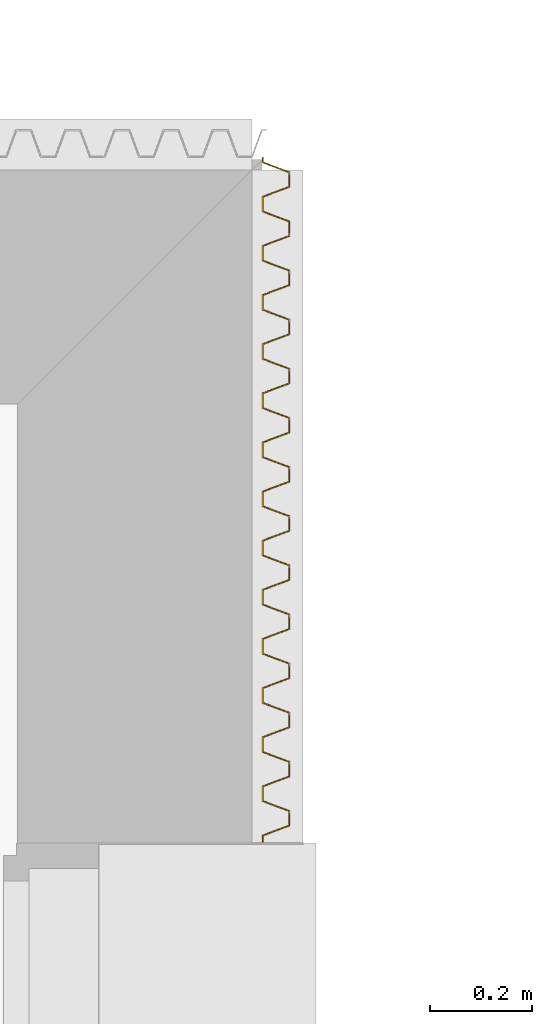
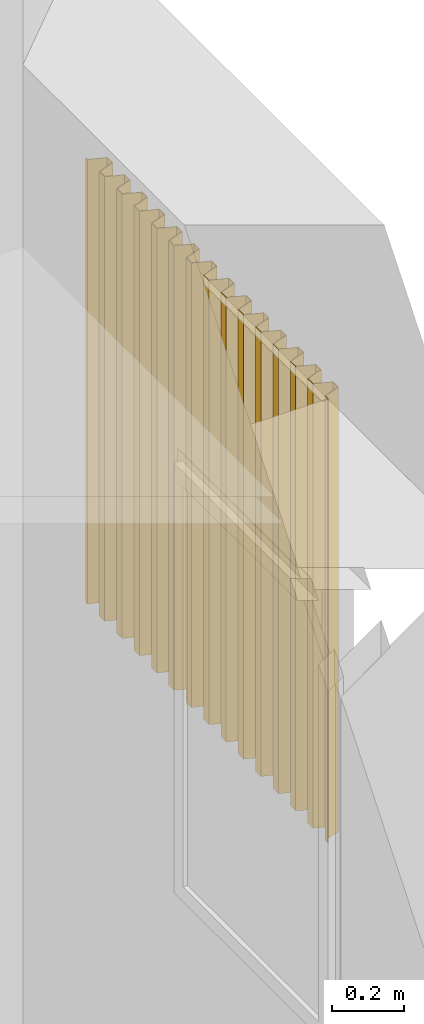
# One storey, part 88 of 91: 1 covering.
"""IFC2X3 building model written with IfcOpenShell, lengths in metres."""

from ifc_helpers import new_model, entity, si_unit, converted_unit, derived_unit, money_unit, direction, frame, origin_with_axes, place, context, subcontext, project, spatial, faceted_brep, material, type_object, element, save


model = new_model("IFC2X3")

# Units and contexts
model_context = context("Model", 3, precision=1e-05, world=origin_with_axes(), true_north=direction((0.0, 1.0)))
body_context = subcontext(model_context, "Body", "Model", "MODEL_VIEW")
ifc_project = project(units=[si_unit("LENGTHUNIT", "METRE"), si_unit("AREAUNIT", "SQUARE_METRE"), si_unit("VOLUMEUNIT", "CUBIC_METRE"), converted_unit("PLANEANGLEUNIT", "DEGREE", entity("IfcPlaneAngleMeasure", 0.0174532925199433), si_unit("PLANEANGLEUNIT", "RADIAN"), dimensions=[0, 0, 0, 0, 0, 0, 0]), money_unit("EUR"), converted_unit("TIMEUNIT", "Year", entity("IfcTimeMeasure", 31557600.0), si_unit("TIMEUNIT", "SECOND"), dimensions=[0, 0, 1, 0, 0, 0, 0]), si_unit("MASSUNIT", "GRAM", prefix="KILO"), si_unit("THERMODYNAMICTEMPERATUREUNIT", "DEGREE_CELSIUS"), si_unit("LUMINOUSINTENSITYUNIT", "LUMEN"), si_unit("ENERGYUNIT", "JOULE", prefix="MEGA"), derived_unit("THERMALCONDUCTANCEUNIT", [(si_unit("POWERUNIT", "WATT"), 1), (si_unit("LENGTHUNIT", "METRE"), -1), (si_unit("THERMODYNAMICTEMPERATUREUNIT", "KELVIN"), -1)]), derived_unit("SPECIFICHEATCAPACITYUNIT", [(si_unit("ENERGYUNIT", "JOULE"), 1), (si_unit("MASSUNIT", "GRAM", prefix="KILO"), -1), (si_unit("THERMODYNAMICTEMPERATUREUNIT", "KELVIN"), -1)]), derived_unit("MASSDENSITYUNIT", [(si_unit("MASSUNIT", "GRAM", prefix="KILO"), 1), (si_unit("VOLUMEUNIT", "CUBIC_METRE"), -1)])], contexts=[model_context])

# Site, building, storey
site_placement = place(None, origin_with_axes())
site = spatial("IfcSite", under=ifc_project, at=site_placement, Name="Site", CompositionType="ELEMENT")
building_placement = place(site_placement, origin_with_axes())
building = spatial("IfcBuilding", under=site, at=building_placement, Name="Bâtiment", CompositionType="ELEMENT")
storey_placement = place(building_placement, origin_with_axes())
storey = spatial("IfcBuildingStorey", under=building, at=storey_placement, Name="RDC", CompositionType="ELEMENT", Elevation=0.0)

# Covering
ifc_material = material(Name="Métal - Acier")
covering_type = type_object("IfcCoveringType", Name="Tôle profilée 27", PredefinedType="NOTDEFINED")
covering_placement = place(storey_placement, frame((60.278, -12.11456213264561, 1.001500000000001), z_axis=(0.0, 0.0, 1.0), x_axis=(0.9999999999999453, 3.309421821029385e-07, 0.0)))
element("IfcCovering", 1, at=covering_placement, inside=storey, type_object=covering_type, material=ifc_material, Name="PLACE STATIONNEMENT PMR", PredefinedType="NOTDEFINED", context=body_context, shape_type="Brep", body=[
    faceted_brep([(0.0, 0.0, 0.0), (0.0, 0.0, 1.499811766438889), (0.0, 0.01500000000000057, 1.499811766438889), (0.0, 0.01500000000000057, 0.0), (0.002, 0.0, 0.0), (0.002, 0.0, 1.499811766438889), (0.001999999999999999, 0.01361121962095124, 1.499811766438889), (0.05399999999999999, 0.03299999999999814, 1.499811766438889), (0.05399999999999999, 0.06299999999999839, 1.499811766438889), (0.001999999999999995, 0.08238878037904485, 1.499811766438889), (0.001999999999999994, 0.1096112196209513, 1.499811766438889), (0.05399999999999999, 0.1289999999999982, 1.499811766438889), (0.05399999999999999, 0.1589999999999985, 1.499811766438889), (0.001999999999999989, 0.1783887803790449, 1.499811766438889), (0.001999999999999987, 0.2056112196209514, 1.499811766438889), (0.05399999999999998, 0.2249999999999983, 1.499811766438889), (0.05399999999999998, 0.2549999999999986, 1.499811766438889), (0.001999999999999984, 0.274388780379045, 1.499811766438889), (0.001999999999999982, 0.3016112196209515, 1.499811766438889), (0.05399999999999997, 0.3209999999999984, 1.499811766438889), (0.05399999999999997, 0.3509999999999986, 1.499811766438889), (0.001999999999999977, 0.3703887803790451, 1.499811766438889), (0.001999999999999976, 0.3976112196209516, 1.499811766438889), (0.05399999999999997, 0.4169999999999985, 1.499811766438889), (0.05399999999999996, 0.4469999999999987, 1.499811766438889), (0.001999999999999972, 0.4663887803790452, 1.499811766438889), (0.00199999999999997, 0.4936112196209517, 1.499811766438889), (0.05399999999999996, 0.5129999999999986, 1.499811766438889), (0.05399999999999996, 0.5429999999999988, 1.499811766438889), (0.001999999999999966, 0.5623887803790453, 1.499811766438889), (0.001999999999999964, 0.5896112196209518, 1.499811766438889), (0.05399999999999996, 0.6089999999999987, 1.499811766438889), (0.05399999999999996, 0.6389999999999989, 1.499811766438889), (0.00199999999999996, 0.6583887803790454, 1.499811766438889), (0.001999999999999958, 0.6856112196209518, 1.499811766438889), (0.05399999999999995, 0.7049999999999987, 1.499811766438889), (0.05399999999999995, 0.734999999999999, 1.499811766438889), (0.001999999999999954, 0.7543887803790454, 1.499811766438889), (0.001999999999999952, 0.7816112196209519, 1.499811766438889), (0.05399999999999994, 0.8009999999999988, 1.499811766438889), (0.05399999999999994, 0.8309999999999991, 1.499811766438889), (0.001999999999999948, 0.8503887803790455, 1.499811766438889), (0.001999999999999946, 0.877611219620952, 1.499811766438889), (0.05399999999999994, 0.8969999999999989, 1.499811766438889), (0.05399999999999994, 0.9269999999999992, 1.499811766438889), (0.001999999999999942, 0.9463887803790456, 1.499811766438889), (0.001999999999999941, 0.9736112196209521, 1.499811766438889), (0.05399999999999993, 0.992999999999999, 1.499811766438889), (0.05399999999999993, 1.022999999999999, 1.499811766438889), (0.001999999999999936, 1.042388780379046, 1.499811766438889), (0.001999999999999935, 1.069611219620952, 1.499811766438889), (0.05399999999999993, 1.088999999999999, 1.499811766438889), (0.05399999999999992, 1.118999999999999, 1.499811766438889), (0.001999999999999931, 1.138388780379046, 1.499811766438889), (0.001999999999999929, 1.165611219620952, 1.499811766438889), (0.05399999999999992, 1.184999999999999, 1.499811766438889), (0.05399999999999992, 1.214999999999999, 1.499811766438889), (0.001999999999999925, 1.234388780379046, 1.499811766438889), (0.001999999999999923, 1.261611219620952, 1.499811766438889), (0.05399999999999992, 1.280999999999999, 1.499811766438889), (0.05399999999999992, 1.310999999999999, 1.499811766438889), (0.001999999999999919, 1.330388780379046, 1.499811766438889), (0.001999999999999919, 1.339825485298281, 1.499811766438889), (0.0, 1.339825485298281, 1.499811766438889), (0.0, 1.329000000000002, 1.499811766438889), (0.05199999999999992, 1.309611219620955, 1.499811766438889), (0.05199999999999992, 1.282388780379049, 1.499811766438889), (0.0, 1.263000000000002, 1.499811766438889), (0.0, 1.233000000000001, 1.499811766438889), (0.05199999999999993, 1.213611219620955, 1.499811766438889), (0.05199999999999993, 1.186388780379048, 1.499811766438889), (0.0, 1.167000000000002, 1.499811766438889), (0.0, 1.137000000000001, 1.499811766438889), (0.05199999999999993, 1.117611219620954, 1.499811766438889), (0.05199999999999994, 1.090388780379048, 1.499811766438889), (0.0, 1.071000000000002, 1.499811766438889), (0.0, 1.041000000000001, 1.499811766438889), (0.05199999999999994, 1.021611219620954, 1.499811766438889), (0.05199999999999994, 0.9943887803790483, 1.499811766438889), (0.0, 0.9750000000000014, 1.499811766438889), (0.0, 0.9450000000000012, 1.499811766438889), (0.05199999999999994, 0.9256112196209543, 1.499811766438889), (0.05199999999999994, 0.8983887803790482, 1.499811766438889), (0.0, 0.8790000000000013, 1.499811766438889), (0.0, 0.8490000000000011, 1.499811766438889), (0.05199999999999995, 0.8296112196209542, 1.499811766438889), (0.05199999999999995, 0.8023887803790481, 1.499811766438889), (0.0, 0.7830000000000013, 1.499811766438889), (0.0, 0.753000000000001, 1.499811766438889), (0.05199999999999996, 0.7336112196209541, 1.499811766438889), (0.05199999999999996, 0.7063887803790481, 1.499811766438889), (0.0, 0.6870000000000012, 1.499811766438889), (0.0, 0.6570000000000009, 1.499811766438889), (0.05199999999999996, 0.637611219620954, 1.499811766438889), (0.05199999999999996, 0.610388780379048, 1.499811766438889), (0.0, 0.5910000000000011, 1.499811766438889), (0.0, 0.5610000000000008, 1.499811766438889), (0.05199999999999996, 0.5416112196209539, 1.499811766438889), (0.05199999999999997, 0.5143887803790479, 1.499811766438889), (0.0, 0.495000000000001, 1.499811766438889), (0.0, 0.4650000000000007, 1.499811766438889), (0.05199999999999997, 0.4456112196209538, 1.499811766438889), (0.05199999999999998, 0.4183887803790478, 1.499811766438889), (0.0, 0.3990000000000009, 1.499811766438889), (0.0, 0.3690000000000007, 1.499811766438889), (0.05199999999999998, 0.3496112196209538, 1.499811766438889), (0.05199999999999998, 0.3223887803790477, 1.499811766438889), (0.0, 0.3030000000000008, 1.499811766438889), (0.0, 0.2730000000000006, 1.499811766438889), (0.05199999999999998, 0.2536112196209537, 1.499811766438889), (0.05199999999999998, 0.2263887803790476, 1.499811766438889), (0.0, 0.2070000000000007, 1.499811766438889), (0.0, 0.1770000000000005, 1.499811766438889), (0.05199999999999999, 0.1576112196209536, 1.499811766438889), (0.05199999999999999, 0.1303887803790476, 1.499811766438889), (0.0, 0.1110000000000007, 1.499811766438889), (0.0, 0.0810000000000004, 1.499811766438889), (0.052, 0.06161121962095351, 1.499811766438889), (0.052, 0.03438878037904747, 1.499811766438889), (0.052, 0.03438878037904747, 0.0), (0.052, 0.06161121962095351, 0.0), (0.0, 0.0810000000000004, 0.0), (0.0, 0.1110000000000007, 0.0), (0.05199999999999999, 0.1303887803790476, 0.0), (0.05199999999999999, 0.1576112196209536, 0.0), (0.0, 0.1770000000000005, 0.0), (0.0, 0.2070000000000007, 0.0), (0.05199999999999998, 0.2263887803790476, 0.0), (0.05199999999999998, 0.2536112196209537, 0.0), (0.0, 0.2730000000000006, 0.0), (0.0, 0.3030000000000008, 0.0), (0.05199999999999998, 0.3223887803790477, 0.0), (0.05199999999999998, 0.3496112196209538, 0.0), (0.0, 0.3690000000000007, 0.0), (0.0, 0.3990000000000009, 0.0), (0.05199999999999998, 0.4183887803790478, 0.0), (0.05199999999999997, 0.4456112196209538, 0.0), (0.0, 0.4650000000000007, 0.0), (0.0, 0.495000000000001, 0.0), (0.05199999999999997, 0.5143887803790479, 0.0), (0.05199999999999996, 0.5416112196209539, 0.0), (0.0, 0.5610000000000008, 0.0), (0.0, 0.5910000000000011, 0.0), (0.05199999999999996, 0.610388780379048, 0.0), (0.05199999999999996, 0.637611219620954, 0.0), (0.0, 0.6570000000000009, 0.0), (0.0, 0.6870000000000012, 0.0), (0.05199999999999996, 0.7063887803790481, 0.0), (0.05199999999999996, 0.7336112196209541, 0.0), (0.0, 0.753000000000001, 0.0), (0.0, 0.7830000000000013, 0.0), (0.05199999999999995, 0.8023887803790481, 0.0), (0.05199999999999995, 0.8296112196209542, 0.0), (0.0, 0.8490000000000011, 0.0), (0.0, 0.8790000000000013, 0.0), (0.05199999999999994, 0.8983887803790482, 0.0), (0.05199999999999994, 0.9256112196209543, 0.0), (0.0, 0.9450000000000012, 0.0), (0.0, 0.9750000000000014, 0.0), (0.05199999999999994, 0.9943887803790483, 0.0), (0.05199999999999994, 1.021611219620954, 0.0), (0.0, 1.041000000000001, 0.0), (0.0, 1.071000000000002, 0.0), (0.05199999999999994, 1.090388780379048, 0.0), (0.05199999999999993, 1.117611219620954, 0.0), (0.0, 1.137000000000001, 0.0), (0.0, 1.167000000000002, 0.0), (0.05199999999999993, 1.186388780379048, 0.0), (0.05199999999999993, 1.213611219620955, 0.0), (0.0, 1.233000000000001, 0.0), (0.0, 1.263000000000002, 0.0), (0.05199999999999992, 1.282388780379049, 0.0), (0.05199999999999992, 1.309611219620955, 0.0), (0.0, 1.329000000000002, 0.0), (0.0, 1.339825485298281, 0.0), (0.001999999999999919, 1.339825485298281, 0.0), (0.001999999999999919, 1.330388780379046, 0.0), (0.05399999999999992, 1.310999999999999, 0.0), (0.05399999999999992, 1.280999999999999, 0.0), (0.001999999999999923, 1.261611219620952, 0.0), (0.001999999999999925, 1.234388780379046, 0.0), (0.05399999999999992, 1.214999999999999, 0.0), (0.05399999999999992, 1.184999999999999, 0.0), (0.001999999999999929, 1.165611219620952, 0.0), (0.001999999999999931, 1.138388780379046, 0.0), (0.05399999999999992, 1.118999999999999, 0.0), (0.05399999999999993, 1.088999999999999, 0.0), (0.001999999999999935, 1.069611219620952, 0.0), (0.001999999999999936, 1.042388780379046, 0.0), (0.05399999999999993, 1.022999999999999, 0.0), (0.05399999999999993, 0.992999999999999, 0.0), (0.001999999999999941, 0.9736112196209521, 0.0), (0.001999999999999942, 0.9463887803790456, 0.0), (0.05399999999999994, 0.9269999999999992, 0.0), (0.05399999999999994, 0.8969999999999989, 0.0), (0.001999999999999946, 0.877611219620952, 0.0), (0.001999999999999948, 0.8503887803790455, 0.0), (0.05399999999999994, 0.8309999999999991, 0.0), (0.05399999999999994, 0.8009999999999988, 0.0), (0.001999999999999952, 0.7816112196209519, 0.0), (0.001999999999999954, 0.7543887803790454, 0.0), (0.05399999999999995, 0.734999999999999, 0.0), (0.05399999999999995, 0.7049999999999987, 0.0), (0.001999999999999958, 0.6856112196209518, 0.0), (0.00199999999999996, 0.6583887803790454, 0.0), (0.05399999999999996, 0.6389999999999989, 0.0), (0.05399999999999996, 0.6089999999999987, 0.0), (0.001999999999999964, 0.5896112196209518, 0.0), (0.001999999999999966, 0.5623887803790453, 0.0), (0.05399999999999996, 0.5429999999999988, 0.0), (0.05399999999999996, 0.5129999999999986, 0.0), (0.00199999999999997, 0.4936112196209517, 0.0), (0.001999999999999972, 0.4663887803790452, 0.0), (0.05399999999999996, 0.4469999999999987, 0.0), (0.05399999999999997, 0.4169999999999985, 0.0), (0.001999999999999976, 0.3976112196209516, 0.0), (0.001999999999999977, 0.3703887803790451, 0.0), (0.05399999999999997, 0.3509999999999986, 0.0), (0.05399999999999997, 0.3209999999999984, 0.0), (0.001999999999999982, 0.3016112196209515, 0.0), (0.001999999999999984, 0.274388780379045, 0.0), (0.05399999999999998, 0.2549999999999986, 0.0), (0.05399999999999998, 0.2249999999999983, 0.0), (0.001999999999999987, 0.2056112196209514, 0.0), (0.001999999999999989, 0.1783887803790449, 0.0), (0.05399999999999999, 0.1589999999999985, 0.0), (0.05399999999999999, 0.1289999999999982, 0.0), (0.001999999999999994, 0.1096112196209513, 0.0), (0.001999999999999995, 0.08238878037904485, 0.0), (0.05399999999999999, 0.06299999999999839, 0.0), (0.05399999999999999, 0.03299999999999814, 0.0), (0.001999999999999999, 0.01361121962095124, 0.0)], [[[0, 1, 2, 3]], [[0, 4, 5, 1]], [[2, 1, 5, 6, 7, 8, 9, 10, 11, 12, 13, 14, 15, 16, 17, 18, 19, 20, 21, 22, 23, 24, 25, 26, 27, 28, 29, 30, 31, 32, 33, 34, 35, 36, 37, 38, 39, 40, 41, 42, 43, 44, 45, 46, 47, 48, 49, 50, 51, 52, 53, 54, 55, 56, 57, 58, 59, 60, 61, 62, 63, 64, 65, 66, 67, 68, 69, 70, 71, 72, 73, 74, 75, 76, 77, 78, 79, 80, 81, 82, 83, 84, 85, 86, 87, 88, 89, 90, 91, 92, 93, 94, 95, 96, 97, 98, 99, 100, 101, 102, 103, 104, 105, 106, 107, 108, 109, 110, 111, 112, 113, 114, 115, 116, 117, 118]], [[3, 2, 118, 119]], [[4, 0, 3, 119, 120, 121, 122, 123, 124, 125, 126, 127, 128, 129, 130, 131, 132, 133, 134, 135, 136, 137, 138, 139, 140, 141, 142, 143, 144, 145, 146, 147, 148, 149, 150, 151, 152, 153, 154, 155, 156, 157, 158, 159, 160, 161, 162, 163, 164, 165, 166, 167, 168, 169, 170, 171, 172, 173, 174, 175, 176, 177, 178, 179, 180, 181, 182, 183, 184, 185, 186, 187, 188, 189, 190, 191, 192, 193, 194, 195, 196, 197, 198, 199, 200, 201, 202, 203, 204, 205, 206, 207, 208, 209, 210, 211, 212, 213, 214, 215, 216, 217, 218, 219, 220, 221, 222, 223, 224, 225, 226, 227, 228, 229, 230, 231]], [[231, 6, 5, 4]], [[230, 7, 6, 231]], [[229, 8, 7, 230]], [[228, 9, 8, 229]], [[227, 10, 9, 228]], [[226, 11, 10, 227]], [[225, 12, 11, 226]], [[224, 13, 12, 225]], [[223, 14, 13, 224]], [[222, 15, 14, 223]], [[221, 16, 15, 222]], [[220, 17, 16, 221]], [[219, 18, 17, 220]], [[218, 19, 18, 219]], [[217, 20, 19, 218]], [[216, 21, 20, 217]], [[215, 22, 21, 216]], [[214, 23, 22, 215]], [[213, 24, 23, 214]], [[212, 25, 24, 213]], [[211, 26, 25, 212]], [[210, 27, 26, 211]], [[209, 28, 27, 210]], [[208, 29, 28, 209]], [[207, 30, 29, 208]], [[206, 31, 30, 207]], [[205, 32, 31, 206]], [[204, 33, 32, 205]], [[203, 34, 33, 204]], [[202, 35, 34, 203]], [[201, 36, 35, 202]], [[200, 37, 36, 201]], [[199, 38, 37, 200]], [[198, 39, 38, 199]], [[197, 40, 39, 198]], [[196, 41, 40, 197]], [[195, 42, 41, 196]], [[194, 43, 42, 195]], [[193, 44, 43, 194]], [[192, 45, 44, 193]], [[191, 46, 45, 192]], [[190, 47, 46, 191]], [[189, 48, 47, 190]], [[188, 49, 48, 189]], [[187, 50, 49, 188]], [[186, 51, 50, 187]], [[185, 52, 51, 186]], [[184, 53, 52, 185]], [[183, 54, 53, 184]], [[182, 55, 54, 183]], [[181, 56, 55, 182]], [[180, 57, 56, 181]], [[179, 58, 57, 180]], [[178, 59, 58, 179]], [[177, 60, 59, 178]], [[176, 61, 60, 177]], [[175, 62, 61, 176]], [[174, 63, 62, 175]], [[173, 64, 63, 174]], [[172, 65, 64, 173]], [[171, 66, 65, 172]], [[170, 67, 66, 171]], [[169, 68, 67, 170]], [[168, 69, 68, 169]], [[167, 70, 69, 168]], [[166, 71, 70, 167]], [[165, 72, 71, 166]], [[164, 73, 72, 165]], [[163, 74, 73, 164]], [[162, 75, 74, 163]], [[161, 76, 75, 162]], [[160, 77, 76, 161]], [[159, 78, 77, 160]], [[158, 79, 78, 159]], [[157, 80, 79, 158]], [[156, 81, 80, 157]], [[155, 82, 81, 156]], [[154, 83, 82, 155]], [[153, 84, 83, 154]], [[152, 85, 84, 153]], [[151, 86, 85, 152]], [[150, 87, 86, 151]], [[149, 88, 87, 150]], [[148, 89, 88, 149]], [[147, 90, 89, 148]], [[146, 91, 90, 147]], [[145, 92, 91, 146]], [[144, 93, 92, 145]], [[143, 94, 93, 144]], [[142, 95, 94, 143]], [[141, 96, 95, 142]], [[140, 97, 96, 141]], [[139, 98, 97, 140]], [[138, 99, 98, 139]], [[137, 100, 99, 138]], [[136, 101, 100, 137]], [[135, 102, 101, 136]], [[134, 103, 102, 135]], [[133, 104, 103, 134]], [[132, 105, 104, 133]], [[131, 106, 105, 132]], [[130, 107, 106, 131]], [[129, 108, 107, 130]], [[128, 109, 108, 129]], [[127, 110, 109, 128]], [[126, 111, 110, 127]], [[125, 112, 111, 126]], [[124, 113, 112, 125]], [[123, 114, 113, 124]], [[122, 115, 114, 123]], [[121, 116, 115, 122]], [[120, 117, 116, 121]], [[119, 118, 117, 120]]]),
])

save(model, "model.ifc")
